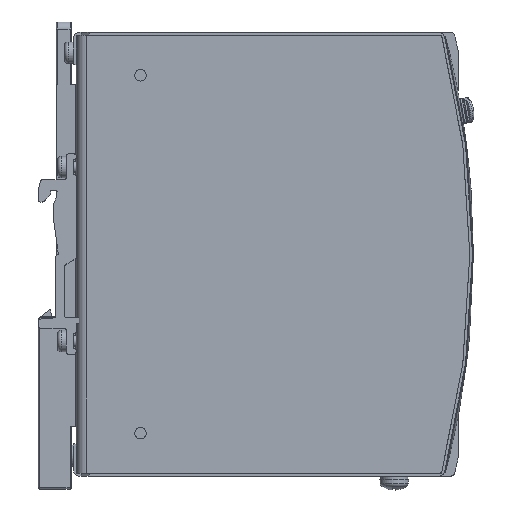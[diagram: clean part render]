
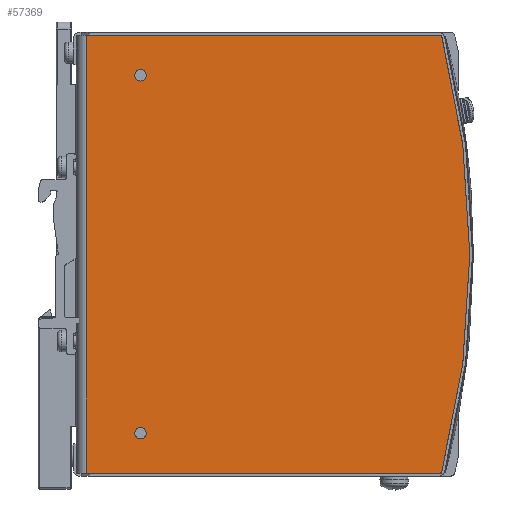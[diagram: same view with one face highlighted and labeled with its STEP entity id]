
A CAD part, front view. The second image highlights one B-rep face of the part: STEP entity #57369.
In plain terms, the highlighted planar face has unit normal (0, -1, 0).
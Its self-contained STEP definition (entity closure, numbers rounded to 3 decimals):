
#1112=FACE_BOUND('',#8226,.T.);
#1113=FACE_BOUND('',#8227,.T.);
#2888=PLANE('',#60816);
#5225=FACE_OUTER_BOUND('',#8225,.T.);
#8225=EDGE_LOOP('',(#40377,#40378,#40379,#40380));
#8226=EDGE_LOOP('',(#40381));
#8227=EDGE_LOOP('',(#40382));
#12047=LINE('',#79547,#18645);
#12054=LINE('',#79571,#18652);
#12056=LINE('',#79576,#18654);
#18645=VECTOR('',#64890,10.);
#18652=VECTOR('',#64917,10.);
#18654=VECTOR('',#64923,10.);
#25215=CIRCLE('',#60779,1.6);
#25217=CIRCLE('',#60782,1.6);
#25223=CIRCLE('',#60795,240.);
#26341=VERTEX_POINT('',#79461);
#26343=VERTEX_POINT('',#79467);
#26357=VERTEX_POINT('',#79509);
#26358=VERTEX_POINT('',#79510);
#26372=VERTEX_POINT('',#79546);
#26379=VERTEX_POINT('',#79570);
#31932=EDGE_CURVE('',#26341,#26341,#25215,.T.);
#31935=EDGE_CURVE('',#26343,#26343,#25217,.T.);
#31956=EDGE_CURVE('',#26357,#26358,#25223,.T.);
#31974=EDGE_CURVE('',#26357,#26372,#12047,.T.);
#31986=EDGE_CURVE('',#26379,#26372,#12054,.T.);
#31989=EDGE_CURVE('',#26358,#26379,#12056,.T.);
#40377=ORIENTED_EDGE('',*,*,#31956,.T.);
#40378=ORIENTED_EDGE('',*,*,#31989,.T.);
#40379=ORIENTED_EDGE('',*,*,#31986,.T.);
#40380=ORIENTED_EDGE('',*,*,#31974,.F.);
#40381=ORIENTED_EDGE('',*,*,#31932,.T.);
#40382=ORIENTED_EDGE('',*,*,#31935,.T.);
#57369=ADVANCED_FACE('',(#5225,#1112,#1113),#2888,.T.);
#60779=AXIS2_PLACEMENT_3D('',#79462,#64810,#64811);
#60782=AXIS2_PLACEMENT_3D('',#79468,#64817,#64818);
#60795=AXIS2_PLACEMENT_3D('',#79511,#64858,#64859);
#60816=AXIS2_PLACEMENT_3D('',#79575,#64921,#64922);
#64810=DIRECTION('center_axis',(0.,1.,0.));
#64811=DIRECTION('ref_axis',(-1.,0.,0.));
#64817=DIRECTION('center_axis',(0.,1.,0.));
#64818=DIRECTION('ref_axis',(-1.,0.,0.));
#64858=DIRECTION('center_axis',(0.,-1.,0.));
#64859=DIRECTION('ref_axis',(-0.967,0.,-0.255));
#64890=DIRECTION('',(-1.,0.,0.));
#64917=DIRECTION('',(0.,0.,-1.));
#64921=DIRECTION('center_axis',(0.,-1.,0.));
#64922=DIRECTION('ref_axis',(0.,0.,-1.));
#64923=DIRECTION('',(-1.,0.,0.));
#79461=CARTESIAN_POINT('',(19.6,-19.5,50.));
#79462=CARTESIAN_POINT('Origin',(18.,-19.5,50.));
#79467=CARTESIAN_POINT('',(19.6,-19.5,-50.));
#79468=CARTESIAN_POINT('Origin',(18.,-19.5,-50.));
#79509=CARTESIAN_POINT('',(102.079,-19.5,-61.15));
#79510=CARTESIAN_POINT('',(102.079,-19.5,61.15));
#79511=CARTESIAN_POINT('Origin',(-130.,-19.5,0.));
#79546=CARTESIAN_POINT('',(3.,-19.5,-61.15));
#79547=CARTESIAN_POINT('',(130.,-19.5,-61.15));
#79570=CARTESIAN_POINT('',(3.,-19.5,61.15));
#79571=CARTESIAN_POINT('',(3.,-19.5,-61.15));
#79575=CARTESIAN_POINT('Origin',(130.,-19.5,-61.15));
#79576=CARTESIAN_POINT('',(130.,-19.5,61.15));
